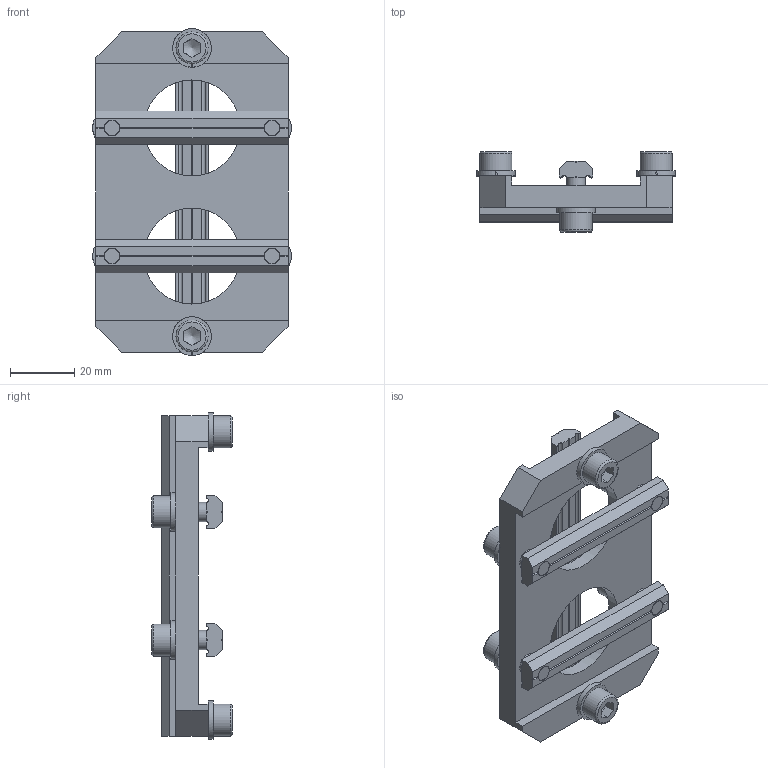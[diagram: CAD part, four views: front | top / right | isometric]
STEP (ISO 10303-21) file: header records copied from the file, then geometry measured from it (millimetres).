
FILE_DESCRIPTION(/* description */ ('Profile Cross Clamp'),/* implementation_level */ '2;1');
FILE_NAME(/* name */ 'PCC-40-80.STEP',/* time_stamp */ '2026-02-10T15:14:12-05:00',/* author */ ('Design2'),/* organization */ ('CCS Design LLC'),/* preprocessor_version */ 'ST-DEVELOPER v20',/* originating_system */ 'Autodesk Inventor 2025',/* authorisation */ '');
FILE_SCHEMA (('AUTOMOTIVE_DESIGN { 1 0 10303 214 3 1 1 }'));
Length unit declared in the file: inch
Products named in the file (6): PCC-80-40; M-PCC-80-40; ANSI B18.3.1M - M6x1 x 16; ASME B18.21.2M - 6; CN-6-90; CN-6-50
Assembly tree (16 placements, depth 2):
  PCC-80-40
    M-PCC-80-40
    ANSI B18.3.1M - M6x1 x 16  x6
    ASME B18.21.2M - 6  x6
    CN-6-50  x2
    CN-6-90
Bounding box: 62.08 x 25.14 x 102.08 mm (x, y, z)
Volume: 40488.6 mm3; surface area: 26213.7 mm2
Topology: 16 solids, 16 shells, 218 faces, 576 edges, 384 vertices
Faces by surface type: plane 126, cylinder 68, torus 12, cone 12
Full cylindrical faces by diameter (mm): 4.928 x6, 6 x6, 6.604 x6, 10 x6, 30 x2
Entity records: 3618 total; most frequent: CARTESIAN_POINT 838, DIRECTION 550, ORIENTED_EDGE 526, EDGE_CURVE 263, AXIS2_PLACEMENT_3D 197, VERTEX_POINT 176, LINE 156, VECTOR 156
